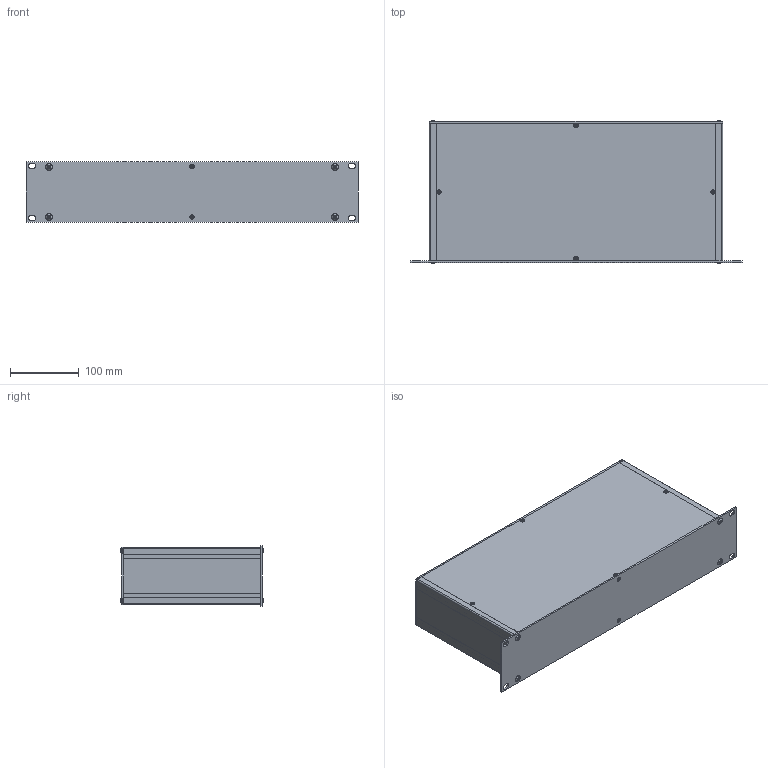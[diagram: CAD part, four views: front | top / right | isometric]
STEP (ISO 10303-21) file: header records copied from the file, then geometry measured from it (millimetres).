
FILE_DESCRIPTION(/* description */ (''),/* implementation_level */ '2;1');
FILE_NAME(/* name */ '//diskstation/Kunden/Gehäuse/Gehäuse/2HE/step/Zoll 2HE Rack Gehäuse Tiefe-200.step',/* time_stamp */ '2022-02-17T15:38:31+01:00',/* author */ (''),/* organization */ (''),/* preprocessor_version */ 'ST-DEVELOPER v18.1',/* originating_system */ 'Autodesk Translation Framework v10.10.0.1391',/* authorisation */ '');
FILE_SCHEMA (('AUTOMOTIVE_DESIGN { 1 0 10303 214 3 1 1 }'));
Length unit declared in the file: millimetre
Products named in the file (28): 2HE Gehäuse mit parametern; Gehäuse; Gehäuseprofil 1 unten links; Gehäuseprofil 2 oben rechts; Gehäuseprofil 1 unten rechts; Gehäuseprofil 2 oben links; Rückplatte; Deckel; Seitenteil links; Seitenteil rechts; Bodenplatte; Montageklotz Front/Deckel; Montageklotz Front/Boden; Montageklotz Rück/Deckel; Montageklotz Rück/Boden; Gewindestreifen; Frontplatte; Schrauben M5; Schraube Front; Schraube Front (1); Schraube Front (2); Schraube Front (3); Schraube Rück (1); Schraube Rück; Schraube Rück (2); Schraube Rück (3); Schrauben M3; HI_Senkschraube DIN 965 A v2 M3x5 24677.030.005(High)
Assembly tree (37 placements, depth 3):
  2HE Gehäuse mit parametern
    Gehäuse
      Gehäuseprofil 1 unten links
      Gehäuseprofil 2 oben rechts
      Gehäuseprofil 1 unten rechts
      Gehäuseprofil 2 oben links
      Rückplatte
      Deckel
      Seitenteil links
      Seitenteil rechts
      Bodenplatte
      Montageklotz Front/Deckel
      Montageklotz Front/Boden
      Montageklotz Rück/Deckel
      Montageklotz Rück/Boden
      Gewindestreifen  x2
    Frontplatte
    Schrauben M5
      Schraube Front
      Schraube Front (1)
      Schraube Front (2)
      Schraube Front (3)
      Schraube Rück (1)
      Schraube Rück
      Schraube Rück (2)
      Schraube Rück (3)
    Schrauben M3
      HI_Senkschraube DIN 965 A v2 M3x5 24677.030.005(High)  x10
Bounding box: 483 x 208.2 x 88.1 mm (x, y, z)
Volume: 705513 mm3; surface area: 630550.3 mm2
Topology: 34 solids, 34 shells, 834 faces, 2016 edges, 1250 vertices
Faces by surface type: plane 342, cylinder 312, cone 164, torus 8, bspline 8
Full cylindrical faces by diameter (mm): 2.529 x70, 3 x10, 3.2 x10, 4.234 x40, 5 x8, 5.2 x8, 5.3 x4, 5.6 x10, 9.5 x8
Entity records: 16455 total; most frequent: CARTESIAN_POINT 3018, DIRECTION 2750, ORIENTED_EDGE 2430, EDGE_CURVE 1215, AXIS2_PLACEMENT_3D 1030, VERTEX_POINT 758, EDGE_LOOP 701, LINE 690
